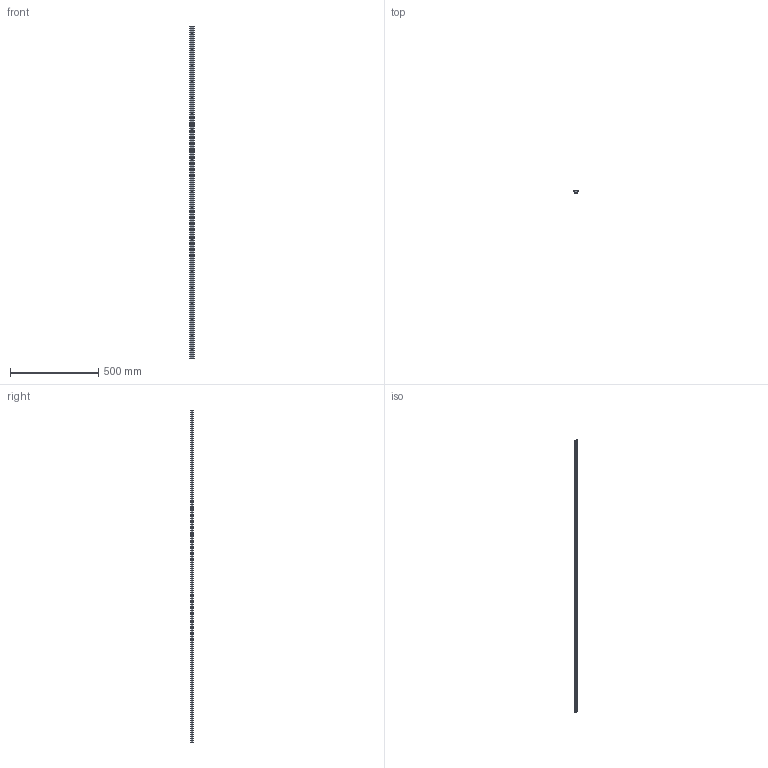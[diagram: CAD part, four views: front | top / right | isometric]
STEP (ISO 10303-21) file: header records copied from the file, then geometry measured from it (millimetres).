
FILE_DESCRIPTION(('STEP AP203'),'1');
FILE_NAME('slide_ns25l1886p3.stp','2022-07-01T04:26:25',('TraceParts'),('TraceParts S.A.'),'Spatial InterOp 3D',' ',' ');
FILE_SCHEMA(('CONFIG_CONTROL_DESIGN'));
Length unit declared in the file: millimetre
Products named in the file (1): 1
Bounding box: 25.45 x 12.66 x 1886 mm (x, y, z)
Volume: 357330.4 mm3; surface area: 155455.1 mm2
Topology: 1 solids, 1 shells, 143 faces, 360 edges, 240 vertices
Faces by surface type: cylinder 104, plane 39
Entity records: 4530 total; most frequent: DIRECTION 856, CARTESIAN_POINT 744, ORIENTED_EDGE 720, EDGE_CURVE 360, AXIS2_PLACEMENT_3D 352, VERTEX_POINT 240, CIRCLE 208, EDGE_LOOP 206
